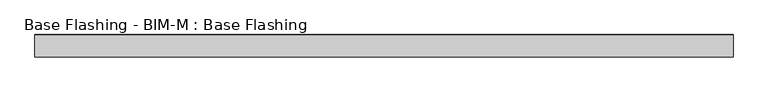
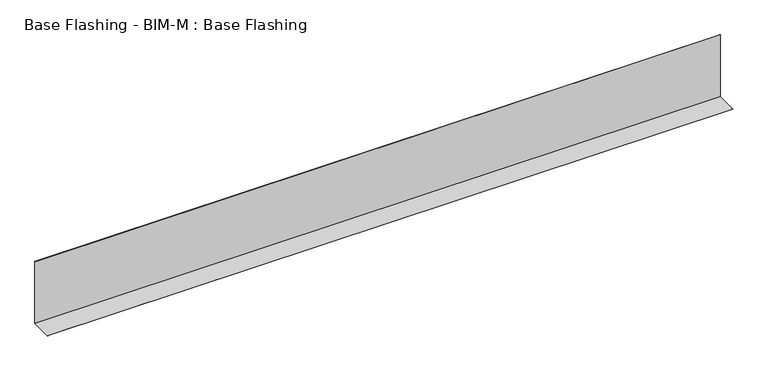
"""IFC4 building model written with IfcOpenShell, lengths in millimetres: proxy geometry, Base Flashing - BIM-M : Base Flashing."""

from ifc_helpers import new_model, si_unit, frame, origin, place, context, project, spatial, polyline, outline, extrude, source, transform, mapped, element, save


def base_flashing_bim_m_base_flashing_fcce7a06(model_context):
    return source(origin(), model_context, "Body", "SweptSolid", [
        extrude(outline(polyline([(0.0, 581.025), (0.0, 0.0), (-193.675, 0.0), (-193.675, 0.79375), (-0.79375, 0.79375), (-0.79375, 581.025), (0.0, 581.025)])), frame((-3048.0, 0.0, 0.0), z_axis=(1.0, 0.0, 0.0), x_axis=(0.0, 1.0, 0.0)), (0.0, 0.0, 1.0), 6096.0),
    ])


if __name__ == "__main__":
    model = new_model("IFC4")
    model_context = context("Model", 3, world=origin())
    ifc_project = project(units=[si_unit("LENGTHUNIT", "METRE", prefix="MILLI")], contexts=[model_context])
    site = spatial("IfcSite", under=ifc_project)
    building = spatial("IfcBuilding", under=site)
    placement = place(None, origin())
    base_flashing_bim_m_base_flashing_shape = base_flashing_bim_m_base_flashing_fcce7a06(model_context)
    element("IfcBuildingElementProxy", 1, Name="Base Flashing - BIM-M : Base Flashing", ObjectType="Base Flashing - BIM-M : Base Flashing", at=placement, inside=building, context=model_context, shape_type="MappedRepresentation", body=[
        mapped(base_flashing_bim_m_base_flashing_shape, transform((0.0, 0.0, 0.0), x_axis=(1.0, 0.0, 0.0), y_axis=(0.0, 1.0, 0.0), z_axis=(0.0, 0.0, 1.0))),
    ])
    save(model, "model.ifc")
